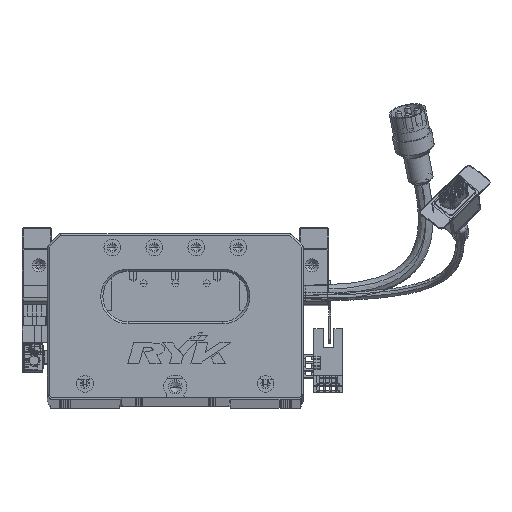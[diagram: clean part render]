
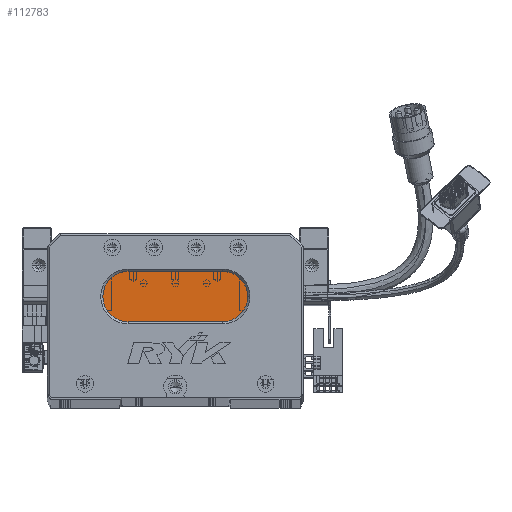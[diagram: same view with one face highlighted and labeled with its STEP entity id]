
A CAD part, top view. The second image highlights one B-rep face of the part: STEP entity #112783.
In plain terms, the highlighted planar face has unit normal (0, 0, 1) as drawn and (0, 0, -1) by its records, which use the part's own axes.
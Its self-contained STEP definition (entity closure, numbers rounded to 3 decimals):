
#2806 = DIRECTION ( 'NONE',  ( -1., 0., 0. ) ) ;
#4783 = EDGE_CURVE ( 'NONE', #46803, #110822, #67123, .T. ) ;
#15164 = PLANE ( 'NONE',  #63744 ) ;
#20984 = DIRECTION ( 'NONE',  ( -1., 0., 0. ) ) ;
#23797 = AXIS2_PLACEMENT_3D ( 'NONE', #76230, #103272, #84276 ) ;
#25142 = DIRECTION ( 'NONE',  ( -1., 0., 0. ) ) ;
#25819 = CARTESIAN_POINT ( 'NONE',  ( 83.5, 60., 13. ) ) ;
#29028 = CIRCLE ( 'NONE', #116217, 12. ) ;
#29616 = ORIENTED_EDGE ( 'NONE', *, *, #73215, .T. ) ;
#30856 = LINE ( 'NONE', #92549, #43766 ) ;
#32369 = EDGE_CURVE ( 'NONE', #56607, #46803, #103650, .T. ) ;
#35516 = DIRECTION ( 'NONE',  ( 0., 0., -1. ) ) ;
#40319 = EDGE_CURVE ( 'NONE', #117022, #56607, #30856, .T. ) ;
#43453 = CARTESIAN_POINT ( 'NONE',  ( 38.5, 60., 13. ) ) ;
#43766 = VECTOR ( 'NONE', #20984, 1000. ) ;
#44748 = CARTESIAN_POINT ( 'NONE',  ( 83.5, 48., 13. ) ) ;
#46803 = VERTEX_POINT ( 'NONE', #110899 ) ;
#47839 = EDGE_LOOP ( 'NONE', ( #100858, #80981, #82602, #110353, #29616 ) ) ;
#49209 = DIRECTION ( 'NONE',  ( 1., 0., 0. ) ) ;
#54360 = FACE_OUTER_BOUND ( 'NONE', #47839, .T. ) ;
#56607 = VERTEX_POINT ( 'NONE', #84730 ) ;
#59745 = VECTOR ( 'NONE', #49209, 1000. ) ;
#62389 = DIRECTION ( 'NONE',  ( -1., 0., 0. ) ) ;
#63744 = AXIS2_PLACEMENT_3D ( 'NONE', #44748, #35516, #62389 ) ;
#67123 = CIRCLE ( 'NONE', #23797, 12. ) ;
#68405 = AXIS2_PLACEMENT_3D ( 'NONE', #105388, #71912, #25142 ) ;
#71912 = DIRECTION ( 'NONE',  ( 0., 0., -1. ) ) ;
#73215 = EDGE_CURVE ( 'NONE', #110822, #73718, #89693, .T. ) ;
#73718 = VERTEX_POINT ( 'NONE', #25819 ) ;
#76230 = CARTESIAN_POINT ( 'NONE',  ( 38.5, 48., 13. ) ) ;
#80981 = ORIENTED_EDGE ( 'NONE', *, *, #40319, .T. ) ;
#82602 = ORIENTED_EDGE ( 'NONE', *, *, #32369, .T. ) ;
#84276 = DIRECTION ( 'NONE',  ( -1., 0., 0. ) ) ;
#84730 = CARTESIAN_POINT ( 'NONE',  ( 38.5, 36., 13. ) ) ;
#89693 = LINE ( 'NONE', #113739, #59745 ) ;
#92508 = CARTESIAN_POINT ( 'NONE',  ( 83.5, 36., 13. ) ) ;
#92549 = CARTESIAN_POINT ( 'NONE',  ( 83.5, 36., 13. ) ) ;
#93892 = CARTESIAN_POINT ( 'NONE',  ( 83.5, 48., 13. ) ) ;
#100858 = ORIENTED_EDGE ( 'NONE', *, *, #110005, .T. ) ;
#103000 = DIRECTION ( 'NONE',  ( 0., 0., -1. ) ) ;
#103272 = DIRECTION ( 'NONE',  ( 0., 0., -1. ) ) ;
#103650 = CIRCLE ( 'NONE', #68405, 12. ) ;
#105388 = CARTESIAN_POINT ( 'NONE',  ( 38.5, 48., 13. ) ) ;
#110005 = EDGE_CURVE ( 'NONE', #73718, #117022, #29028, .T. ) ;
#110353 = ORIENTED_EDGE ( 'NONE', *, *, #4783, .T. ) ;
#110822 = VERTEX_POINT ( 'NONE', #43453 ) ;
#110899 = CARTESIAN_POINT ( 'NONE',  ( 26.5, 48., 13. ) ) ;
#112783 = ADVANCED_FACE ( 'NONE', ( #54360 ), #15164, .T. ) ;
#113739 = CARTESIAN_POINT ( 'NONE',  ( 83.5, 60., 13. ) ) ;
#116217 = AXIS2_PLACEMENT_3D ( 'NONE', #93892, #103000, #2806 ) ;
#117022 = VERTEX_POINT ( 'NONE', #92508 ) ;
